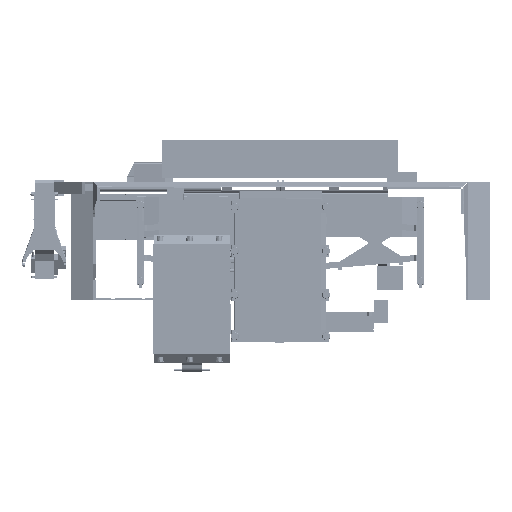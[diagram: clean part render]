
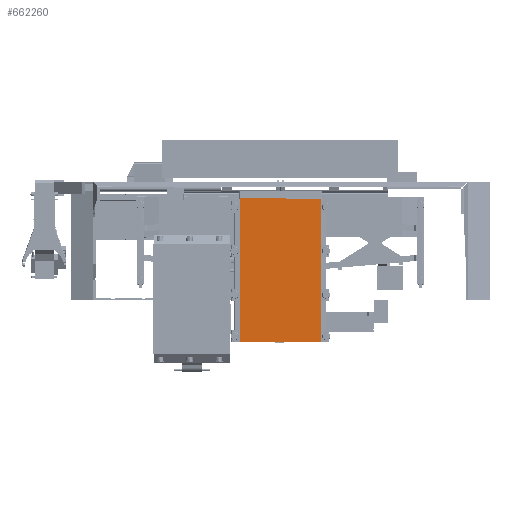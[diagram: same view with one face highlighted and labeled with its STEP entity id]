
A CAD part, front view. The second image highlights one B-rep face of the part: STEP entity #662260.
In plain terms, the highlighted planar face has unit normal (0, -1, 0).
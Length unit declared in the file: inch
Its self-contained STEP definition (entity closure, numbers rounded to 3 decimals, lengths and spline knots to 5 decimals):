
#15006 = VECTOR ( 'NONE', #358133, 39.37008 ) ;
#29146 = ORIENTED_EDGE ( 'NONE', *, *, #464126, .F. ) ;
#29724 = VECTOR ( 'NONE', #173153, 39.37008 ) ;
#32656 = LINE ( 'NONE', #466074, #217131 ) ;
#38417 = CARTESIAN_POINT ( 'NONE',  ( -24.66301, -18.0747, 63.87482 ) ) ;
#39726 = DIRECTION ( 'NONE',  ( 0.707, 0., -0.707 ) ) ;
#43089 = CARTESIAN_POINT ( 'NONE',  ( 18.3258, -18.0747, 49.41789 ) ) ;
#46575 = EDGE_CURVE ( 'NONE', #152516, #636316, #167241, .T. ) ;
#46825 = CARTESIAN_POINT ( 'NONE',  ( 24.9107, -18.0747, -23.94301 ) ) ;
#59659 = FACE_OUTER_BOUND ( 'NONE', #490065, .T. ) ;
#63018 = PLANE ( 'NONE',  #252562 ) ;
#74237 = DIRECTION ( 'NONE',  ( 0., 0., -1. ) ) ;
#85766 = ORIENTED_EDGE ( 'NONE', *, *, #359173, .F. ) ;
#91789 = EDGE_CURVE ( 'NONE', #301407, #340634, #32656, .T. ) ;
#97234 = CARTESIAN_POINT ( 'NONE',  ( -24.9107, -18.0747, -23.94301 ) ) ;
#143706 = VECTOR ( 'NONE', #583960, 39.37008 ) ;
#149870 = EDGE_CURVE ( 'NONE', #681728, #512450, #638160, .T. ) ;
#150856 = ORIENTED_EDGE ( 'NONE', *, *, #476365, .F. ) ;
#152516 = VERTEX_POINT ( 'NONE', #46825 ) ;
#157858 = EDGE_CURVE ( 'NONE', #227863, #636316, #196515, .T. ) ;
#163830 = CARTESIAN_POINT ( 'NONE',  ( -25.91131, -18.0747, -23.94301 ) ) ;
#166386 = CARTESIAN_POINT ( 'NONE',  ( 31.19831, -18.0747, 63.80798 ) ) ;
#166433 = CARTESIAN_POINT ( 'NONE',  ( -24.9107, -18.0747, 63.87482 ) ) ;
#167241 = LINE ( 'NONE', #163830, #143706 ) ;
#170160 = ORIENTED_EDGE ( 'NONE', *, *, #46575, .F. ) ;
#173153 = DIRECTION ( 'NONE',  ( 1., 0., -0.001 ) ) ;
#173333 = CARTESIAN_POINT ( 'NONE',  ( -24.66301, -18.0747, 64.701 ) ) ;
#193067 = CARTESIAN_POINT ( 'NONE',  ( 24.9107, -18.0747, 63.81564 ) ) ;
#196515 = LINE ( 'NONE', #616665, #15006 ) ;
#217131 = VECTOR ( 'NONE', #414319, 39.37008 ) ;
#227863 = VERTEX_POINT ( 'NONE', #166433 ) ;
#231646 = CARTESIAN_POINT ( 'NONE',  ( -25.91131, -18.0747, 68.71829 ) ) ;
#234236 = VECTOR ( 'NONE', #39726, 39.37008 ) ;
#241841 = CARTESIAN_POINT ( 'NONE',  ( 38.4783, -18.0747, 63.87482 ) ) ;
#252562 = AXIS2_PLACEMENT_3D ( 'NONE', #231646, #290112, #341617 ) ;
#282111 = CARTESIAN_POINT ( 'NONE',  ( 3.90246, -18.0747, 63.84123 ) ) ;
#283304 = LINE ( 'NONE', #241841, #522555 ) ;
#288205 = EDGE_CURVE ( 'NONE', #512450, #152516, #425525, .T. ) ;
#290112 = DIRECTION ( 'NONE',  ( 0., -1., 0. ) ) ;
#290163 = ORIENTED_EDGE ( 'NONE', *, *, #553241, .F. ) ;
#301407 = VERTEX_POINT ( 'NONE', #464885 ) ;
#332993 = DIRECTION ( 'NONE',  ( 1., 0., 0.001 ) ) ;
#340634 = VERTEX_POINT ( 'NONE', #648491 ) ;
#341617 = DIRECTION ( 'NONE',  ( 1., 0., 0. ) ) ;
#343108 = CARTESIAN_POINT ( 'NONE',  ( 31.57328, -18.0747, 64.76961 ) ) ;
#345034 = DIRECTION ( 'NONE',  ( 1., 0., 0. ) ) ;
#347548 = ORIENTED_EDGE ( 'NONE', *, *, #149870, .F. ) ;
#356104 = VECTOR ( 'NONE', #393262, 39.37008 ) ;
#358133 = DIRECTION ( 'NONE',  ( 0., 0., -1. ) ) ;
#359173 = EDGE_CURVE ( 'NONE', #340634, #681728, #566524, .T. ) ;
#369629 = ORIENTED_EDGE ( 'NONE', *, *, #157858, .T. ) ;
#388091 = ORIENTED_EDGE ( 'NONE', *, *, #91789, .F. ) ;
#393262 = DIRECTION ( 'NONE',  ( 0., 0., 1. ) ) ;
#414319 = DIRECTION ( 'NONE',  ( 1., 0., 0. ) ) ;
#425525 = LINE ( 'NONE', #490855, #670918 ) ;
#461639 = VECTOR ( 'NONE', #332993, 39.37008 ) ;
#464126 = EDGE_CURVE ( 'NONE', #511366, #301407, #494759, .T. ) ;
#464885 = CARTESIAN_POINT ( 'NONE',  ( -3.01627, -18.0747, 64.72741 ) ) ;
#466074 = CARTESIAN_POINT ( 'NONE',  ( 31.61404, -18.0747, 64.72741 ) ) ;
#476365 = EDGE_CURVE ( 'NONE', #227863, #586615, #283304, .T. ) ;
#490065 = EDGE_LOOP ( 'NONE', ( #347548, #85766, #388091, #29146, #290163, #150856, #369629, #170160, #580504 ) ) ;
#490855 = CARTESIAN_POINT ( 'NONE',  ( 24.9107, -18.0747, 68.71829 ) ) ;
#494759 = LINE ( 'NONE', #343108, #461639 ) ;
#511366 = VERTEX_POINT ( 'NONE', #173333 ) ;
#512450 = VERTEX_POINT ( 'NONE', #193067 ) ;
#522555 = VECTOR ( 'NONE', #345034, 39.37008 ) ;
#553241 = EDGE_CURVE ( 'NONE', #586615, #511366, #648376, .T. ) ;
#566524 = LINE ( 'NONE', #43089, #234236 ) ;
#580504 = ORIENTED_EDGE ( 'NONE', *, *, #288205, .F. ) ;
#583960 = DIRECTION ( 'NONE',  ( -1., 0., 0. ) ) ;
#586615 = VERTEX_POINT ( 'NONE', #38417 ) ;
#589949 = CARTESIAN_POINT ( 'NONE',  ( -24.66301, -18.0747, 63.71829 ) ) ;
#616665 = CARTESIAN_POINT ( 'NONE',  ( -24.9107, -18.0747, 68.71829 ) ) ;
#636316 = VERTEX_POINT ( 'NONE', #97234 ) ;
#638160 = LINE ( 'NONE', #166386, #29724 ) ;
#648376 = LINE ( 'NONE', #589949, #356104 ) ;
#648491 = CARTESIAN_POINT ( 'NONE',  ( 3.01627, -18.0747, 64.72741 ) ) ;
#662260 = ADVANCED_FACE ( 'NONE', ( #59659 ), #63018, .T. ) ;
#670918 = VECTOR ( 'NONE', #74237, 39.37008 ) ;
#681728 = VERTEX_POINT ( 'NONE', #282111 ) ;
